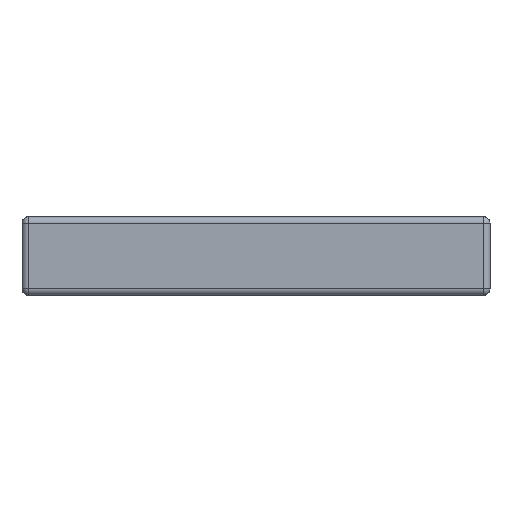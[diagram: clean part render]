
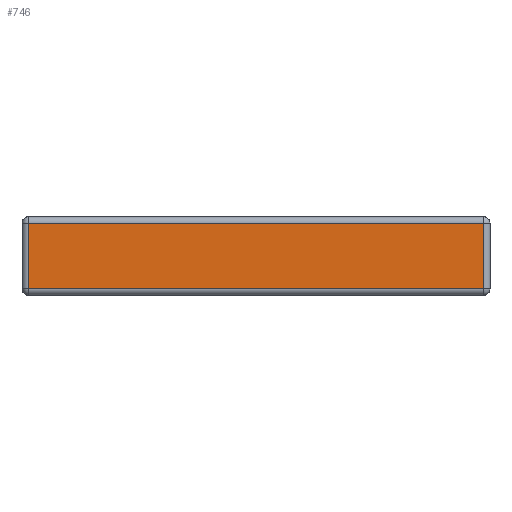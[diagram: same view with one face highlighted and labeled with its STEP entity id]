
A CAD part, front view. The second image highlights one B-rep face of the part: STEP entity #746.
In plain terms, the highlighted planar face has unit normal (0, -1, 0).
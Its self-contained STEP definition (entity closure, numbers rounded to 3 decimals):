
#746=ADVANCED_FACE('',(#1937),#1939,.T.);
#1937=FACE_BOUND('',#1938,.T.);
#1938=EDGE_LOOP('',(#2823,#2824,#2825,#2826));
#1939=PLANE('',#1940);
#1940=AXIS2_PLACEMENT_3D('',#1941,#1942,#1943);
#1941=CARTESIAN_POINT('',(-298.5,-598.5,0.));
#1942=DIRECTION('',(0.,-1.,0.));
#1943=DIRECTION('',(1.,0.,0.));
#2823=ORIENTED_EDGE('',*,*,#3194,.F.);
#2824=ORIENTED_EDGE('',*,*,#3242,.F.);
#2825=ORIENTED_EDGE('',*,*,#3243,.T.);
#2826=ORIENTED_EDGE('',*,*,#3244,.T.);
#3194=EDGE_CURVE('',#3579,#3580,#3581,.T.);
#3242=EDGE_CURVE('',#3669,#3579,#3670,.T.);
#3243=EDGE_CURVE('',#3669,#3671,#3672,.T.);
#3244=EDGE_CURVE('',#3671,#3580,#3673,.T.);
#3579=VERTEX_POINT('',#6243);
#3580=VERTEX_POINT('',#6244);
#3581=LINE('',#6245,#6246);
#3669=VERTEX_POINT('',#6455);
#3670=LINE('',#6456,#6457);
#3671=VERTEX_POINT('',#6459);
#3672=LINE('',#6460,#6461);
#3673=LINE('',#6463,#6464);
#6243=CARTESIAN_POINT('',(-290.5,-598.5,92.));
#6244=CARTESIAN_POINT('',(290.5,-598.5,92.));
#6245=CARTESIAN_POINT('',(-290.5,-598.5,92.));
#6246=VECTOR('',#6247,1.);
#6247=DIRECTION('',(1.,0.,0.));
#6455=CARTESIAN_POINT('',(-290.5,-598.5,8.));
#6456=CARTESIAN_POINT('',(-290.5,-598.5,8.));
#6457=VECTOR('',#6458,1.);
#6458=DIRECTION('',(0.,0.,1.));
#6459=CARTESIAN_POINT('',(290.5,-598.5,8.));
#6460=CARTESIAN_POINT('',(-290.5,-598.5,8.));
#6461=VECTOR('',#6462,1.);
#6462=DIRECTION('',(1.,0.,0.));
#6463=CARTESIAN_POINT('',(290.5,-598.5,8.));
#6464=VECTOR('',#6465,1.);
#6465=DIRECTION('',(0.,0.,1.));
